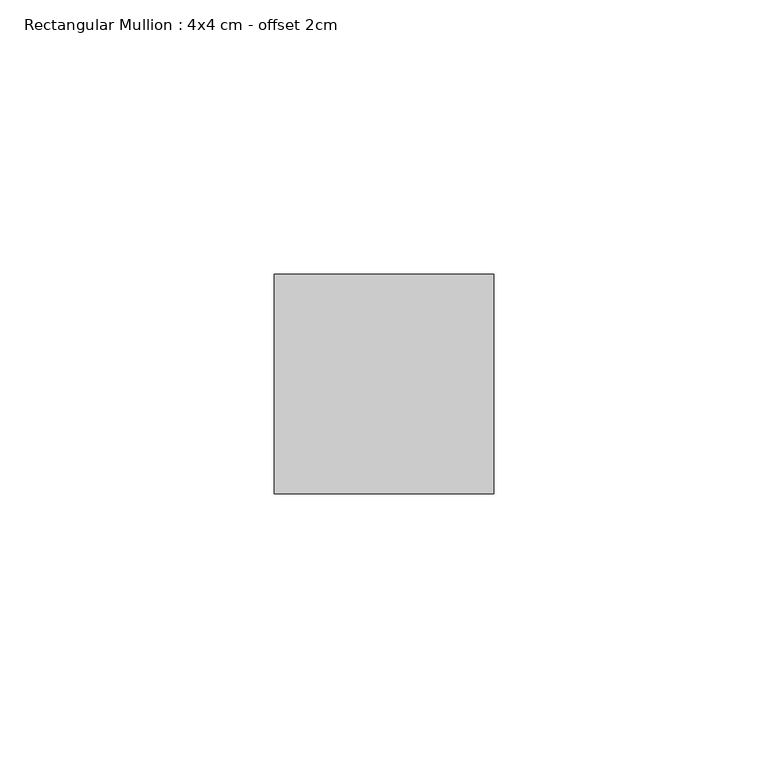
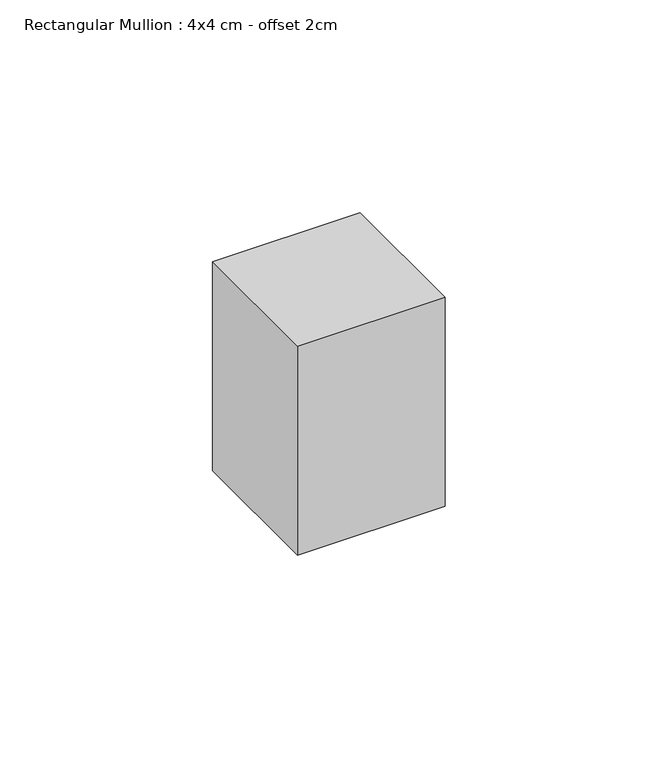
"""IFC4 building model written with IfcOpenShell, lengths in millimetres: member geometry, Rectangular Mullion : 4x4 cm - offset 2cm."""

from ifc_helpers import new_model, si_unit, frame, origin, place, context, project, spatial, polyline, outline, extrude, source, transform, mapped, element, save


def rectangular_mullion_4x4_cm_offset_2cm_7fa27b69(model_context):
    return source(origin(), model_context, "Body", "SweptSolid", [
        extrude(outline(polyline([(0.0, 40.0), (0.0, 0.0), (-40.0, 0.0), (-40.0, 40.0), (0.0, 40.0)])), frame((0.0, 0.0, -60.0), z_axis=(0.0, 0.0, 1.0), x_axis=(1.0, 0.0, 0.0)), (0.0, 0.0, 1.0), 60.0),
    ])


if __name__ == "__main__":
    model = new_model("IFC4")
    model_context = context("Model", 3, world=origin())
    ifc_project = project(units=[si_unit("LENGTHUNIT", "METRE", prefix="MILLI")], contexts=[model_context])
    site = spatial("IfcSite", under=ifc_project)
    building = spatial("IfcBuilding", under=site)
    placement = place(None, origin())
    rectangular_mullion_4x4_cm_offset_2cm_shape = rectangular_mullion_4x4_cm_offset_2cm_7fa27b69(model_context)
    element("IfcMember", 1, ObjectType="Rectangular Mullion : 4x4 cm - offset 2cm", at=placement, inside=building, context=model_context, shape_type="MappedRepresentation", body=[
        mapped(rectangular_mullion_4x4_cm_offset_2cm_shape, transform((0.0, 0.0, 0.0), x_axis=(1.0, 0.0, 0.0), y_axis=(0.0, 1.0, 0.0), z_axis=(0.0, 0.0, 1.0))),
    ])
    save(model, "model.ifc")
